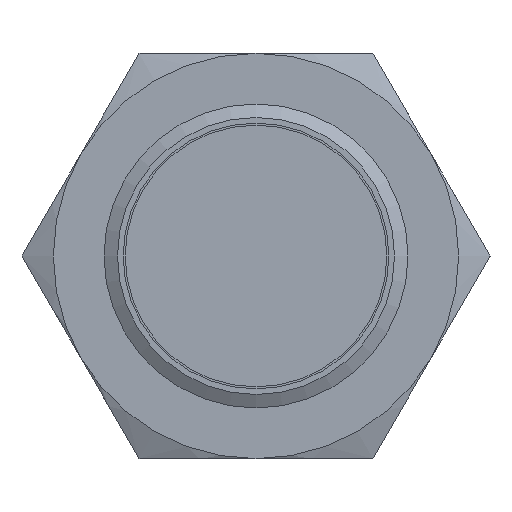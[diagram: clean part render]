
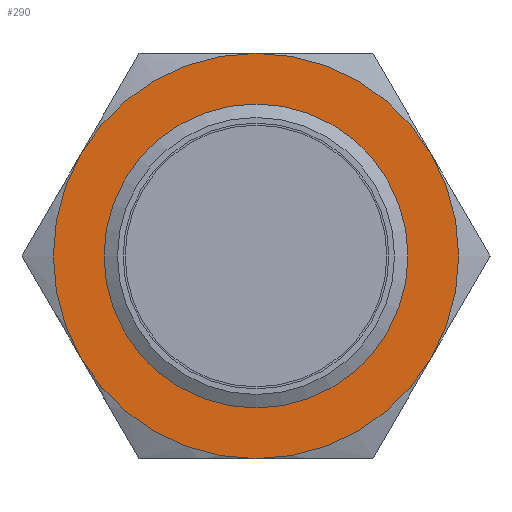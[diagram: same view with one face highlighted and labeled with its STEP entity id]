
A CAD part, left-side view. The second image highlights one B-rep face of the part: STEP entity #290.
In plain terms, the highlighted planar face has unit normal (-1, 0, 0).
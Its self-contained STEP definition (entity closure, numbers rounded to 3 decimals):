
#290=ADVANCED_FACE('PLAN_FACE7',(#566,#567),#382,.T.);
#382=PLANE('',#1595);
#566=FACE_BOUND('',#649,.T.);
#567=FACE_BOUND('',#650,.T.);
#649=EDGE_LOOP('',(#844));
#650=EDGE_LOOP('',(#845,#846,#847,#848,#849,#850));
#844=ORIENTED_EDGE('',*,*,#1345,.T.);
#845=ORIENTED_EDGE('',*,*,#1332,.T.);
#846=ORIENTED_EDGE('',*,*,#1341,.T.);
#847=ORIENTED_EDGE('',*,*,#1352,.T.);
#848=ORIENTED_EDGE('',*,*,#1343,.T.);
#849=ORIENTED_EDGE('',*,*,#1337,.T.);
#850=ORIENTED_EDGE('',*,*,#1334,.T.);
#1190=VERTEX_POINT('',#2255);
#1191=VERTEX_POINT('',#2262);
#1193=VERTEX_POINT('',#2273);
#1195=VERTEX_POINT('',#2289);
#1197=VERTEX_POINT('',#2310);
#1199=VERTEX_POINT('',#2321);
#1200=VERTEX_POINT('',#2330);
#1332=EDGE_CURVE('',#1190,#1191,#1490,.T.);
#1334=EDGE_CURVE('',#1193,#1190,#1491,.T.);
#1337=EDGE_CURVE('',#1195,#1193,#1492,.T.);
#1341=EDGE_CURVE('',#1191,#1197,#1493,.T.);
#1343=EDGE_CURVE('',#1199,#1195,#1494,.T.);
#1345=EDGE_CURVE('',#1200,#1200,#1495,.T.);
#1352=EDGE_CURVE('',#1197,#1199,#1502,.T.);
#1490=CIRCLE('',#1570,12.);
#1491=CIRCLE('',#1572,12.);
#1492=CIRCLE('',#1574,12.);
#1493=CIRCLE('',#1576,12.);
#1494=CIRCLE('',#1578,12.);
#1495=CIRCLE('',#1580,9.);
#1502=CIRCLE('',#1594,12.);
#1570=AXIS2_PLACEMENT_3D('',#2263,#1801,#1802);
#1572=AXIS2_PLACEMENT_3D('',#2272,#1805,#1806);
#1574=AXIS2_PLACEMENT_3D('',#2288,#1809,#1810);
#1576=AXIS2_PLACEMENT_3D('',#2311,#1813,#1814);
#1578=AXIS2_PLACEMENT_3D('',#2320,#1817,#1818);
#1580=AXIS2_PLACEMENT_3D('',#2329,#1821,#1822);
#1594=AXIS2_PLACEMENT_3D('',#2350,#1849,#1850);
#1595=AXIS2_PLACEMENT_3D('',#2351,#1851,#1852);
#1801=DIRECTION('',(-1.,0.,0.));
#1802=DIRECTION('',(0.,0.,1.));
#1805=DIRECTION('',(-1.,0.,0.));
#1806=DIRECTION('',(0.,0.,1.));
#1809=DIRECTION('',(-1.,0.,0.));
#1810=DIRECTION('',(0.,0.,1.));
#1813=DIRECTION('',(-1.,0.,0.));
#1814=DIRECTION('',(0.,0.,1.));
#1817=DIRECTION('',(-1.,0.,0.));
#1818=DIRECTION('',(0.,0.,1.));
#1821=DIRECTION('',(1.,0.,0.));
#1822=DIRECTION('',(0.,0.,1.));
#1849=DIRECTION('',(-1.,0.,0.));
#1850=DIRECTION('',(0.,0.,1.));
#1851=DIRECTION('',(-1.,0.,0.));
#1852=DIRECTION('',(0.,0.,1.));
#2255=CARTESIAN_POINT('',(10.,0.,12.));
#2262=CARTESIAN_POINT('',(10.,10.392,6.));
#2263=CARTESIAN_POINT('',(10.,0.,0.));
#2272=CARTESIAN_POINT('',(10.,0.,0.));
#2273=CARTESIAN_POINT('',(10.,-10.392,6.));
#2288=CARTESIAN_POINT('',(10.,0.,0.));
#2289=CARTESIAN_POINT('',(10.,-10.392,-6.));
#2310=CARTESIAN_POINT('',(10.,10.392,-6.));
#2311=CARTESIAN_POINT('',(10.,0.,0.));
#2320=CARTESIAN_POINT('',(10.,0.,0.));
#2321=CARTESIAN_POINT('',(10.,0.,-12.));
#2329=CARTESIAN_POINT('',(10.,0.,0.));
#2330=CARTESIAN_POINT('',(10.,0.,9.));
#2350=CARTESIAN_POINT('',(10.,0.,0.));
#2351=CARTESIAN_POINT('',(10.,0.,0.));
